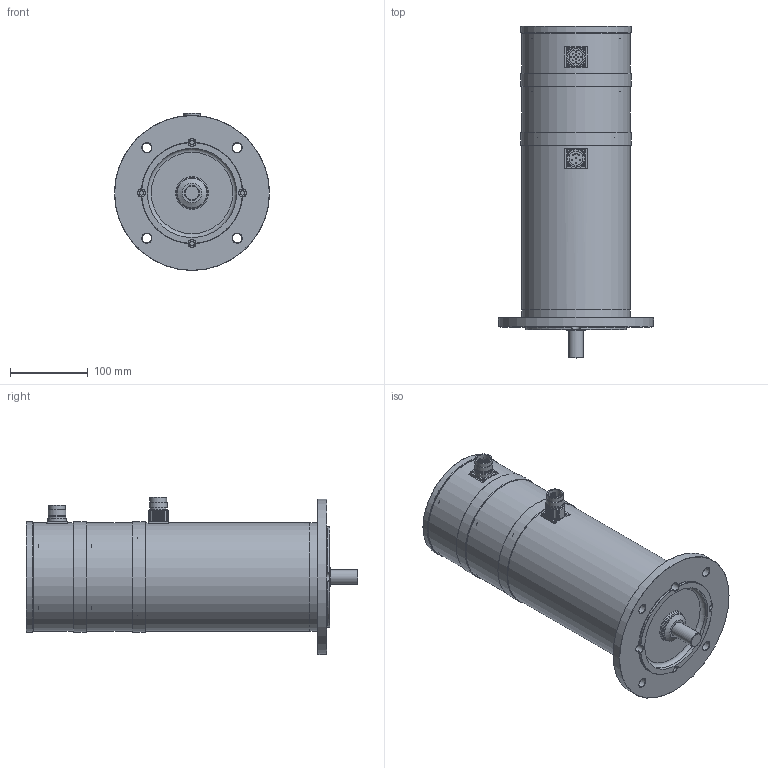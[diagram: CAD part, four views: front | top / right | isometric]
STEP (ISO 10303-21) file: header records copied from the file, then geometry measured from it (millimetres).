
FILE_DESCRIPTION(/* description */ (''),/* implementation_level */ '2;1');
FILE_NAME(/* name */ 'ksa_6x12e_mc_ixx',/* time_stamp */ '2007-03-13T16:25:31+01:00',/* author */ (''),/* organization */ (''),/* preprocessor_version */ 'ST-DEVELOPER v8',/* originating_system */ 'UNIGRAPHICS SOLUTIONS - UNIGRAPHICS 18.0',/* authorisation */ '');
FILE_SCHEMA (('AUTOMOTIVE_DESIGN { 1 2 10303 214 0 1 1 1 }'));
Length unit declared in the file: millimetre
Products named in the file (13): 014261_0; 014260_0; 064258_0; 089259_0; 064303_0; 089260_0; 116160_0; 06331301_0; DIN3760_org_A20x32x7_0; Rotor_SA 64.. E_0; Gehaeuse SA 64.. E_0; 116155_0; KSA648_E-MC-I27_0
Assembly tree (12 placements, depth 2):
  KSA648_E-MC-I27_0
    116155_0
    Gehaeuse SA 64.. E_0
    Rotor_SA 64.. E_0
    DIN3760_org_A20x32x7_0
    06331301_0
    116160_0
    089260_0
    064303_0
    089259_0
    064258_0
    014260_0
    014261_0
Bounding box: 200 x 428 x 202.5 mm (x, y, z)
Volume: 2609364.4 mm3; surface area: 561016 mm2
Topology: 12 solids, 12 shells, 507 faces, 1279 edges, 821 vertices
Faces by surface type: cylinder 233, plane 117, cone 112, torus 24, sphere 20, bspline 1
Full cylindrical faces by diameter (mm): 1 x16, 2 x4, 2.135 x4, 2.7 x8, 3.013 x4, 4.3 x4, 4.351 x12, 5.5 x20, 7 x1, 8.5 x4, 10 x20, 12 x4, 18 x2, 18.52 x1, 18.9 x1, 19 x1, 20 x6, 20.3 x1, 21 x3, 21.5 x2, 23 x4, 24 x2, 26 x1, 29 x1, 32 x2, 38 x1, 40 x3, 47 x2, 70 x1, 105 x1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
Entity records: 13471 total; most frequent: CARTESIAN_POINT 2579, DIRECTION 2394, ORIENTED_EDGE 1602, AXIS2_PLACEMENT_3D 1130, EDGE_LOOP 955, EDGE_CURVE 801, VERTEX_POINT 682, FACE_BOUND 644
